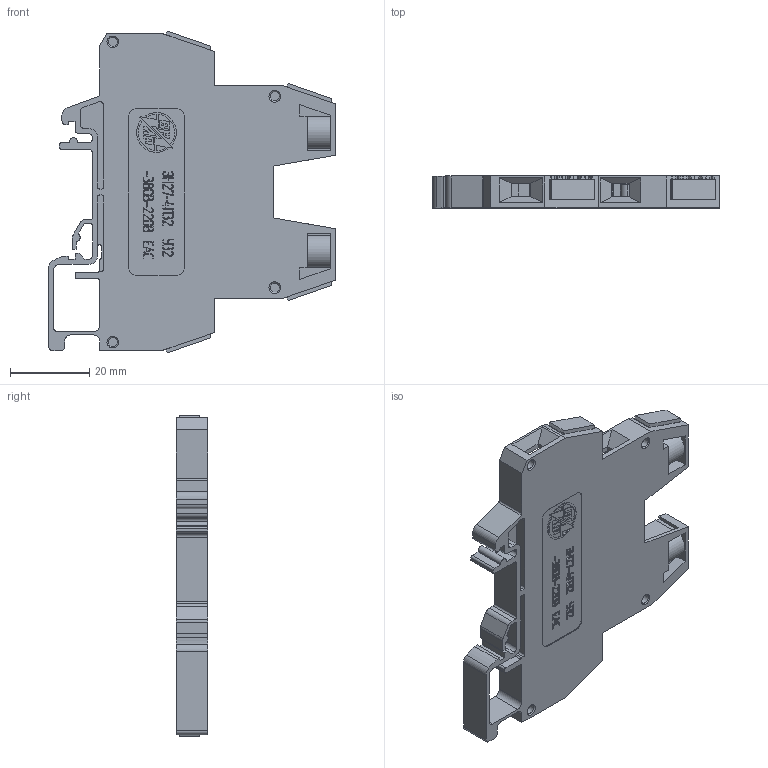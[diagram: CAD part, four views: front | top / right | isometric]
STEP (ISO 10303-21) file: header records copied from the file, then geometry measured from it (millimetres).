
FILE_DESCRIPTION(('STEP AP214'), '1');
FILE_NAME('Çàæèì ÇÍ27-4Ï32 (äëÿ çàêàç÷èêà)', '2026-07-13T06:48:43', (''), (''), 'ASCON STEP Converter 1.6', 'ASCON Math Kernel', '');
FILE_SCHEMA(('AUTOMOTIVE_DESIGN { 1 0 10303 214 3 1 1}'));
Length unit declared in the file: millimetre
Bounding box: 72.1 x 8 x 81.02 mm (x, y, z)
Volume: 14338.4 mm3; surface area: 21879.9 mm2
Topology: 5 solids, 5 shells, 2491 faces, 7253 edges, 4770 vertices
Faces by surface type: plane 1467, cylinder 1008, cone 12, bspline 2, sphere 2
Full cylindrical faces by diameter (mm): 1.8 x4, 2.34 x8, 2.35 x2, 3 x8, 5.5 x2, 5.7 x2
Entity records: 102399 total; most frequent: CARTESIAN_POINT 14529, ORIENTED_EDGE 14426, DIRECTION 14295, EDGE_CURVE 7213, LINE 5103, VECTOR 5103, VERTEX_POINT 4770, AXIS2_PLACEMENT_3D 4596
